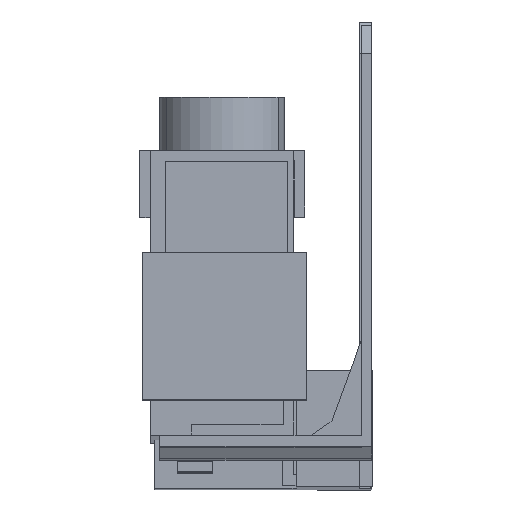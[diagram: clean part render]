
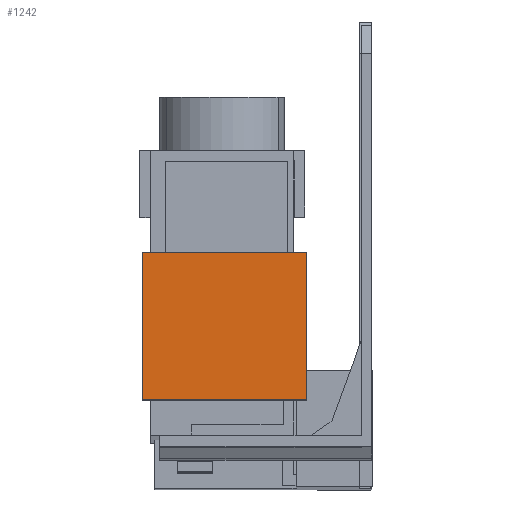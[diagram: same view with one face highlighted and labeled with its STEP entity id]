
A CAD part, front view. The second image highlights one B-rep face of the part: STEP entity #1242.
In plain terms, the highlighted planar face has unit normal (0, -1, 0.003).
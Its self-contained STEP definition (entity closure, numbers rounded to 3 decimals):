
#232 = EDGE_CURVE ( 'NONE', #8069, #8102, #2954, .T. ) ;
#301 = EDGE_CURVE ( 'NONE', #8064, #8065, #3073, .T. ) ;
#376 = EDGE_CURVE ( 'NONE', #8069, #8064, #3199, .T. ) ;
#591 = CARTESIAN_POINT ( 'NONE',  ( -9.3, -31.509, -40.315 ) ) ;
#615 = DIRECTION ( 'NONE',  ( -1., 0., 0. ) ) ;
#1047 = DIRECTION ( 'NONE',  ( -1., 0., 0. ) ) ;
#1056 = CARTESIAN_POINT ( 'NONE',  ( -9.3, -31.452, -19.316 ) ) ;
#1242 = ADVANCED_FACE ( 'NONE', ( #3508 ), #4864, .T. ) ;
#1577 = ORIENTED_EDGE ( 'NONE', *, *, #301, .T. ) ;
#1578 = ORIENTED_EDGE ( 'NONE', *, *, #7191, .F. ) ;
#1579 = ORIENTED_EDGE ( 'NONE', *, *, #232, .F. ) ;
#1580 = ORIENTED_EDGE ( 'NONE', *, *, #376, .T. ) ;
#2951 = VECTOR ( 'NONE', #615, 1000. ) ;
#2954 = LINE ( 'NONE', #591, #2951 ) ;
#3061 = VECTOR ( 'NONE', #1047, 1000. ) ;
#3073 = LINE ( 'NONE', #1056, #3061 ) ;
#3199 = LINE ( 'NONE', #4237, #3204 ) ;
#3204 = VECTOR ( 'NONE', #4239, 1000. ) ;
#3508 = FACE_OUTER_BOUND ( 'NONE', #8781, .T. ) ;
#3972 = LINE ( 'NONE', #5824, #3973 ) ;
#3973 = VECTOR ( 'NONE', #5825, 1000. ) ;
#4237 = CARTESIAN_POINT ( 'NONE',  ( -9.3, -31.509, -40.315 ) ) ;
#4239 = DIRECTION ( 'NONE',  ( 0., 0.003, 1. ) ) ;
#4864 = PLANE ( 'NONE',  #7761 ) ;
#4867 = CARTESIAN_POINT ( 'NONE',  ( -9.3, -31.509, -40.315 ) ) ;
#4873 = DIRECTION ( 'NONE',  ( 0., -1., 0.003 ) ) ;
#4874 = DIRECTION ( 'NONE',  ( 1., 0., 0. ) ) ;
#5824 = CARTESIAN_POINT ( 'NONE',  ( -32.7, -31.509, -40.315 ) ) ;
#5825 = DIRECTION ( 'NONE',  ( 0., 0.003, 1. ) ) ;
#7191 = EDGE_CURVE ( 'NONE', #8102, #8065, #3972, .T. ) ;
#7761 = AXIS2_PLACEMENT_3D ( 'NONE', #4867, #4873, #4874 ) ;
#8064 = VERTEX_POINT ( 'NONE', #8304 ) ;
#8065 = VERTEX_POINT ( 'NONE', #8302 ) ;
#8069 = VERTEX_POINT ( 'NONE', #8305 ) ;
#8102 = VERTEX_POINT ( 'NONE', #8340 ) ;
#8302 = CARTESIAN_POINT ( 'NONE',  ( -32.7, -31.452, -19.316 ) ) ;
#8304 = CARTESIAN_POINT ( 'NONE',  ( -9.3, -31.452, -19.316 ) ) ;
#8305 = CARTESIAN_POINT ( 'NONE',  ( -9.3, -31.509, -40.315 ) ) ;
#8340 = CARTESIAN_POINT ( 'NONE',  ( -32.7, -31.509, -40.315 ) ) ;
#8781 = EDGE_LOOP ( 'NONE', ( #1577, #1578, #1579, #1580 ) ) ;
